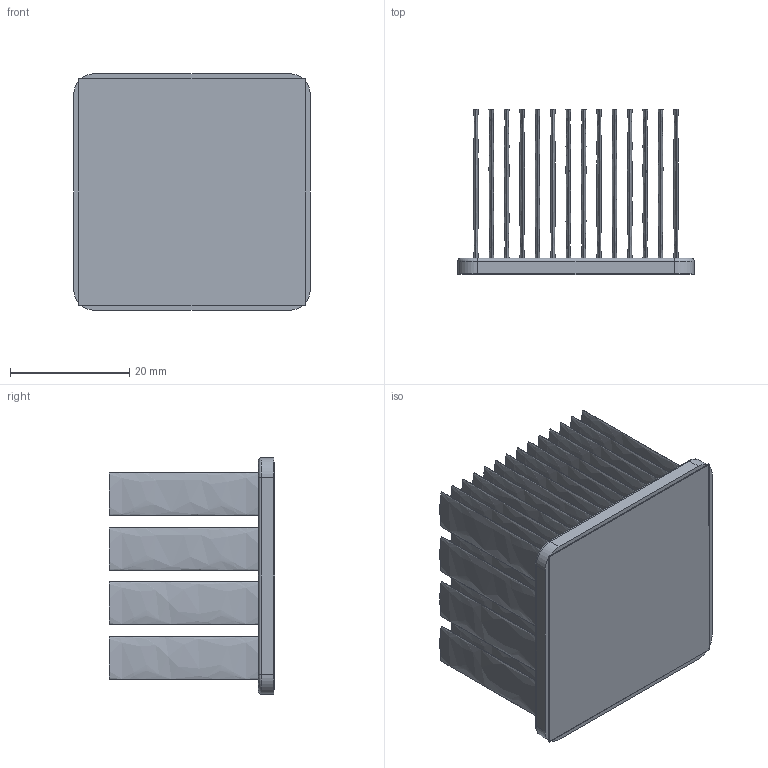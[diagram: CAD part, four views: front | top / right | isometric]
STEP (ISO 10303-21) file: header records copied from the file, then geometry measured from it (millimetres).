
FILE_DESCRIPTION (( 'STEP AP214' ), '1' );
FILE_NAME ('INM40001-28W-2.6.STEP', '2023-02-21T17:44:57', ( '' ), ( '' ), 'SwSTEP 2.0', 'SolidWorks 2020', '' );
FILE_SCHEMA (( 'AUTOMOTIVE_DESIGN' ));
Length unit declared in the file: inch
Products named in the file (1): INM40001-28W-2.6
Bounding box: 39.6 x 27.73 x 39.6 mm (x, y, z)
Volume: 10675.1 mm3; surface area: 26981.8 mm2
Topology: 2 solids, 2 shells, 192 faces, 388 edges, 256 vertices
Faces by surface type: bspline 112, plane 68, cylinder 8, torus 4
Entity records: 7791 total; most frequent: CARTESIAN_POINT 2293, ORIENTED_EDGE 776, EDGE_CURVE 388, DIRECTION 346, VERTEX_POINT 256, EDGE_LOOP 248, UNCERTAINTY_MEASURE_WITH_UNIT 196, LENGTH_MEASURE_WITH_UNIT 196
